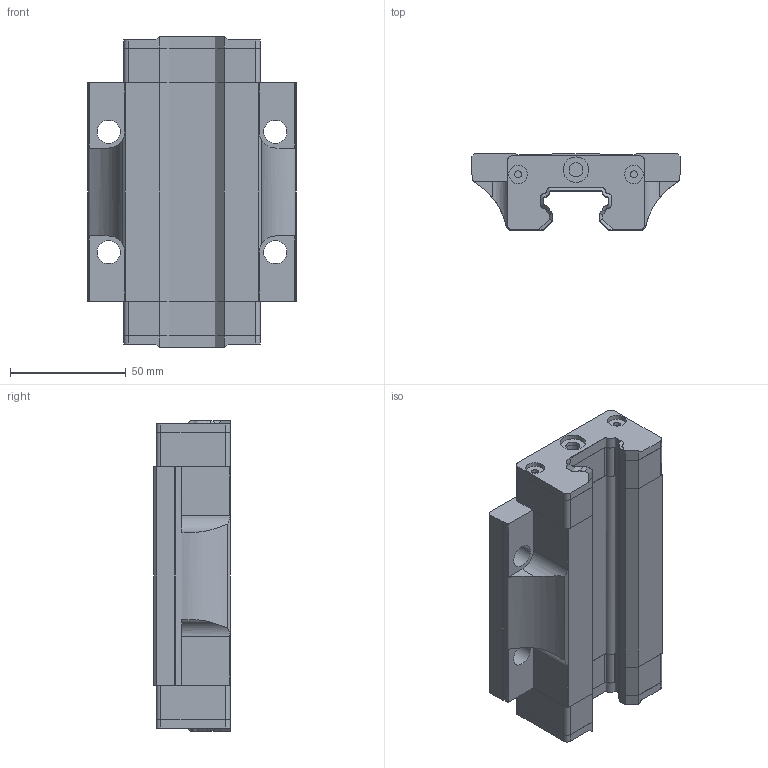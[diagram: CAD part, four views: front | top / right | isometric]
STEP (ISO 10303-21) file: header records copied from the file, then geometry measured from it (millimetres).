
FILE_DESCRIPTION(('FreeCAD Model'),'2;1');
FILE_NAME('Open CASCADE Shape Model','2022-10-12T09:40:25',('Author'),( ''),'Open CASCADE STEP processor 7.5','FreeCAD','Unknown');
FILE_SCHEMA(('AUTOMOTIVE_DESIGN { 1 0 10303 214 1 1 1 1 }'));
Length unit declared in the file: millimetre
Products named in the file (4): Unnamed; Product005; Product; Product001
Assembly tree (5 placements, depth 2):
  Unnamed
    Product005
    Product  x2
    Product001  x2
Bounding box: 90 x 33 x 134.3 mm (x, y, z)
Volume: 240036.5 mm3; surface area: 52271.7 mm2
Topology: 5 solids, 5 shells, 200 faces, 584 edges, 400 vertices
Faces by surface type: plane 121, cylinder 42, bspline 37
Full cylindrical faces by diameter (mm): 3 x8, 6 x4, 8 x4, 10 x4, 11 x2
Entity records: 11662 total; most frequent: CARTESIAN_POINT 5178, DIRECTION 929, ORIENTED_EDGE 728, PCURVE 728, DEFINITIONAL_REPRESENTATION 728, LINE 569, VECTOR 569, EDGE_CURVE 364
